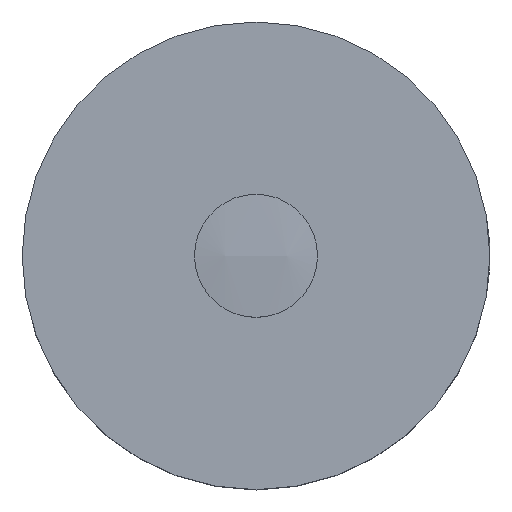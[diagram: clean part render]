
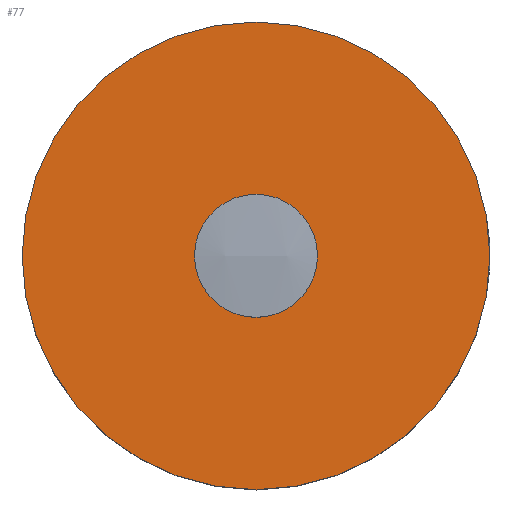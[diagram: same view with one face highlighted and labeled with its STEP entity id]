
A CAD part, top view. The second image highlights one B-rep face of the part: STEP entity #77.
In plain terms, the highlighted planar face has unit normal (0, 0, 1).
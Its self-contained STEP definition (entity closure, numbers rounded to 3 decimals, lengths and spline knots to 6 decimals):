
#77=ADVANCED_FACE('0:48',(#154,#155),#156,.T.);
#154=FACE_OUTER_BOUND('',#233,.T.);
#155=FACE_BOUND('',#234,.T.);
#156=PLANE('',#235);
#233=EDGE_LOOP('',(#387,#388));
#234=EDGE_LOOP('',(#389,#390));
#235=AXIS2_PLACEMENT_3D('',#391,#392,#393);
#387=ORIENTED_EDGE('',*,*,#441,.F.);
#388=ORIENTED_EDGE('',*,*,#497,.F.);
#389=ORIENTED_EDGE('',*,*,#478,.T.);
#390=ORIENTED_EDGE('',*,*,#476,.T.);
#391=CARTESIAN_POINT('',(0.0055,0.,0.014));
#392=DIRECTION('',(0.0,0.,1.0));
#393=DIRECTION('',(1.0,0.0,0.0));
#441=EDGE_CURVE('0:105',#508,#511,#512,.T.);
#476=EDGE_CURVE('',#568,#572,#574,.T.);
#478=EDGE_CURVE('0:72',#572,#568,#576,.T.);
#497=EDGE_CURVE('',#511,#508,#595,.T.);
#508=VERTEX_POINT('',#606);
#511=VERTEX_POINT('',#610);
#512=CIRCLE('',#611,0.019);
#568=VERTEX_POINT('',#706);
#572=VERTEX_POINT('NONE',#711);
#574=CIRCLE('',#714,0.005);
#576=CIRCLE('',#716,0.005);
#595=CIRCLE('',#744,0.019);
#606=CARTESIAN_POINT('',(0.019,0.,0.014));
#610=CARTESIAN_POINT('',(-0.019,0.,0.014));
#611=AXIS2_PLACEMENT_3D('',#755,#756,#757);
#706=CARTESIAN_POINT('',(0.005,0.,0.014));
#711=CARTESIAN_POINT('',(-0.005,0.,0.014));
#714=AXIS2_PLACEMENT_3D('',#805,#806,#807);
#716=AXIS2_PLACEMENT_3D('',#808,#809,#810);
#744=AXIS2_PLACEMENT_3D('',#844,#845,#846);
#755=CARTESIAN_POINT('',(0.,0.,0.014));
#756=DIRECTION('',(0.,0.,-1.0));
#757=DIRECTION('',(1.0,0.,0.));
#805=CARTESIAN_POINT('',(0.,0.,0.014));
#806=DIRECTION('',(0.0,0.,-1.0));
#807=DIRECTION('',(1.0,0.0,0.0));
#808=CARTESIAN_POINT('',(0.,0.,0.014));
#809=DIRECTION('',(0.0,0.,-1.0));
#810=DIRECTION('',(1.0,0.0,0.0));
#844=CARTESIAN_POINT('',(0.,0.,0.014));
#845=DIRECTION('',(0.,0.,-1.0));
#846=DIRECTION('',(1.0,0.,0.));
